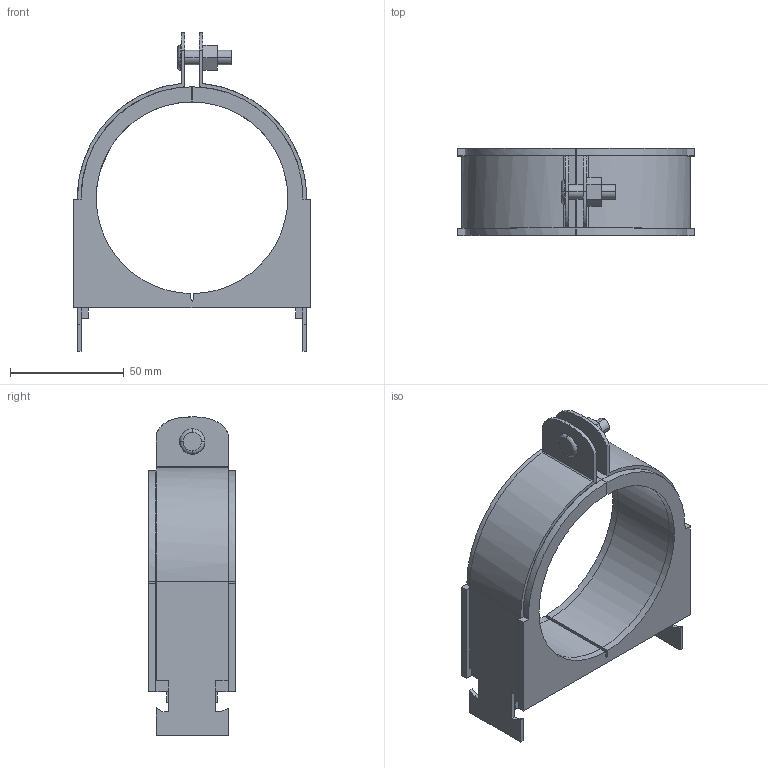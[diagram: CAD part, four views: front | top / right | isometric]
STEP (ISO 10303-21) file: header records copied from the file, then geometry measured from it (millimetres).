
FILE_DESCRIPTION(('TurboCAD Mac Pro'),'Build 980');
FILE_NAME('053N060.stp',' ',(''),(''),'ACIS Interop','IMSI','TurboCAD Mac Pro BY IMSI, INCORPORATED');
FILE_SCHEMA(('automotive_design'));
Length unit declared in the file: inch
Products named in the file (3): 1; 2; 3
Bounding box: 103.76 x 38.1 x 139.7 mm (x, y, z)
Volume: 128963.6 mm3; surface area: 53290.8 mm2
Topology: 3 solids, 3 shells, 154 faces, 409 edges, 265 vertices
Faces by surface type: plane 108, bspline 46
Entity records: 7298 total; most frequent: CARTESIAN_POINT 1800, ORIENTED_EDGE 818, DIRECTION 526, EDGE_CURVE 409, STYLED_ITEM 303, PRESENTATION_STYLE_ASSIGNMENT 303, COLOUR_RGB 303, LINE 296
